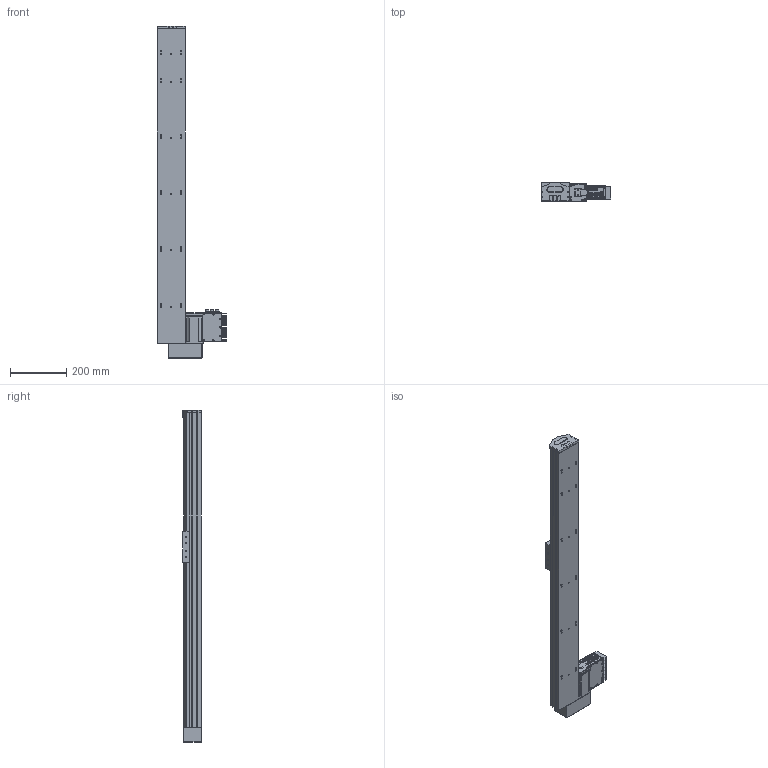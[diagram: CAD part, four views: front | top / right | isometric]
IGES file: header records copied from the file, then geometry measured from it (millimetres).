
Start section: SolidWorks IGES file using analytic representation for surfaces
Global section: file name: C:\Documents and Settings\1EDPI\Mes documents\yanize\S 10 TSH BR\S 10 TSH BR S900.IGS; native system: SolidWorks 2010; preprocessor: SolidWorks 2010; author: 1EDPI; date: 120904.144252; units: millimetre
Bounding box: 249.16 x 67.11 x 1182 mm (x, y, z)
Surface area: 838913.3 mm2 (no closed solid volume)
Topology: 0 solids, 0 shells, 2000 faces, 27196 edges, 27164 vertices
Faces by surface type: revolution 1067, bspline 933
